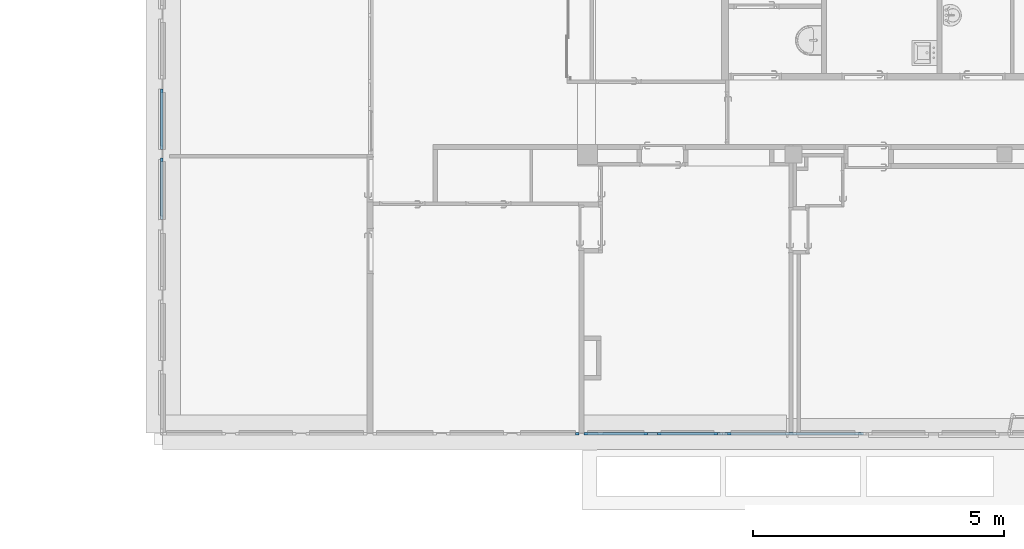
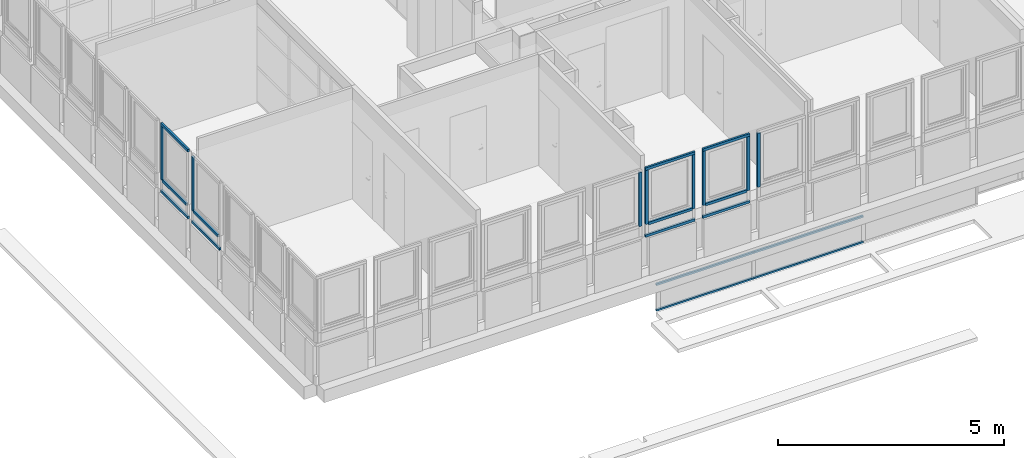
# One storey, part 3 of 97: 23 members, 7 elements without a shape of their own.
"""IFC4 building model written with IfcOpenShell, lengths in metres."""

from ifc_helpers import new_model, entity, si_unit, converted_unit, derived_unit, direction, frame, origin, place, context, subcontext, project, spatial, indexed_curve, outline, extrude, source, transform, mapped, material, type_object, type_shapes, element, aggregate, save


model = new_model("IFC4")

# Units and contexts
model_context = context("Model", 3, precision=1e-05, world=origin(), true_north=direction((6.12303176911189e-17, 1.0)))
body_context = subcontext(model_context, "Body", "Model", "MODEL_VIEW")
ifc_project = project(units=[si_unit("LENGTHUNIT", "METRE"), si_unit("AREAUNIT", "SQUARE_METRE"), si_unit("VOLUMEUNIT", "CUBIC_METRE"), converted_unit("PLANEANGLEUNIT", "DEGREE", entity("IfcRatioMeasure", 0.0174532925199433), si_unit("PLANEANGLEUNIT", "RADIAN"), dimensions=[0, 0, 0, 0, 0, 0, 0]), si_unit("MASSUNIT", "GRAM", prefix="KILO"), derived_unit("MASSDENSITYUNIT", [(si_unit("MASSUNIT", "GRAM", prefix="KILO"), 1), (si_unit("LENGTHUNIT", "METRE"), -3)]), derived_unit("MOMENTOFINERTIAUNIT", [(si_unit("LENGTHUNIT", "METRE"), 4)]), si_unit("TIMEUNIT", "SECOND"), si_unit("FREQUENCYUNIT", "HERTZ"), si_unit("THERMODYNAMICTEMPERATUREUNIT", "DEGREE_CELSIUS"), derived_unit("THERMALTRANSMITTANCEUNIT", [(si_unit("MASSUNIT", "GRAM", prefix="KILO"), 1), (si_unit("THERMODYNAMICTEMPERATUREUNIT", "KELVIN"), -1), (si_unit("TIMEUNIT", "SECOND"), -3)]), derived_unit("VOLUMETRICFLOWRATEUNIT", [(si_unit("LENGTHUNIT", "METRE"), 3), (si_unit("TIMEUNIT", "SECOND"), -1)]), si_unit("ELECTRICCURRENTUNIT", "AMPERE"), si_unit("ELECTRICVOLTAGEUNIT", "VOLT"), si_unit("POWERUNIT", "WATT"), si_unit("FORCEUNIT", "NEWTON", prefix="KILO"), si_unit("ILLUMINANCEUNIT", "LUX"), si_unit("LUMINOUSFLUXUNIT", "LUMEN"), si_unit("LUMINOUSINTENSITYUNIT", "CANDELA"), derived_unit("USERDEFINED", [(si_unit("MASSUNIT", "GRAM", prefix="KILO"), -1), (si_unit("LENGTHUNIT", "METRE"), -2), (si_unit("TIMEUNIT", "SECOND"), 3), (si_unit("LUMINOUSFLUXUNIT", "LUMEN"), 1)]), derived_unit("LINEARVELOCITYUNIT", [(si_unit("LENGTHUNIT", "METRE"), 1), (si_unit("TIMEUNIT", "SECOND"), -1)]), si_unit("PRESSUREUNIT", "PASCAL"), derived_unit("USERDEFINED", [(si_unit("LENGTHUNIT", "METRE"), -2), (si_unit("MASSUNIT", "GRAM", prefix="KILO"), 1), (si_unit("TIMEUNIT", "SECOND"), -2)]), derived_unit("LINEARFORCEUNIT", [(si_unit("MASSUNIT", "GRAM", prefix="KILO"), 1), (si_unit("LENGTHUNIT", "METRE"), 1), (si_unit("TIMEUNIT", "SECOND"), -2), (si_unit("LENGTHUNIT", "METRE"), -1)]), derived_unit("PLANARFORCEUNIT", [(si_unit("MASSUNIT", "GRAM", prefix="KILO"), 1), (si_unit("LENGTHUNIT", "METRE"), 1), (si_unit("TIMEUNIT", "SECOND"), -2), (si_unit("LENGTHUNIT", "METRE"), -2)])], contexts=[model_context])

# Site, building, storey
site_placement = place(None, origin())
site = spatial("IfcSite", under=ifc_project, at=site_placement, Name="Default", CompositionType="ELEMENT")
building_placement = place(site_placement, origin())
building = spatial("IfcBuilding", under=site, at=building_placement, Name="HOTEL CONSULAIRE BOULOGNE SUR MER", CompositionType="ELEMENT")
storey_placement = place(building_placement, frame((0.0, 0.0, 3.62152697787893)))
storey = spatial("IfcBuildingStorey", under=building, at=storey_placement, Name="Niveau 1", CompositionType="ELEMENT", Elevation=3.62152697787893)

# Curtain wall, members
curtain_wall_type = type_object("IfcCurtainWallType", Name="Mur-rideau:Simple panneau", PredefinedType="NOTDEFINED")
curtain_wall_1_placement = place(storey_placement, frame((0.0, 0.0, -3.62152697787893)))
curtain_wall_1 = element("IfcCurtainWall", 1, at=curtain_wall_1_placement, inside=storey, type_object=curtain_wall_type, Name="Mur-rideau:Simple panneau", ObjectType="Mur-rideau:Simple panneau", PredefinedType="NOTDEFINED")
ifc_material = material(Name="PVC - Blanc", Category="Plastique")
member_type_1 = type_object("IfcMemberType", Name="Meneau rectangulaire:50 x 25mm", PredefinedType="MULLION", material=ifc_material)
shared_shape_1 = source(origin(), body_context, "Body", "SweptSolid", [
    extrude(outline(indexed_curve([(-0.025, -0.025), (0.025, -0.025), (0.025, 0.025), (-0.025, 0.025), (-0.025, -0.025)], self_intersect=False)), frame((-0.025, -0.025, -2.486), z_axis=(0.0, 0.0, 1.0), x_axis=(0.0, -1.0, 0.0)), (0.0, 0.0, 1.0), 2.486),
])
type_shapes(member_type_1, [shared_shape_1])
member_1_placement = place(storey_placement, frame((-5.12977317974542, -29.5510671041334, -0.56300000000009), z_axis=(-1.0, 0.0, 0.0), x_axis=(0.0, 0.0, 1.0)))
member_1 = element("IfcMember", 2, at=member_1_placement, type_object=member_type_1, material=ifc_material, Name="Meneau rectangulaire:50 x 25mm", ObjectType="Meneau rectangulaire:50 x 25mm", PredefinedType="MULLION", context=body_context, shape_type="MappedRepresentation", body=[
    mapped(shared_shape_1, transform((0.0, 0.0, 0.0), scale=1.0)),
])
member_type_2 = type_object("IfcMemberType", Name="Meneau rectangulaire:50 x 25mm", PredefinedType="MULLION", material=ifc_material)
shared_shape_2 = source(origin(), body_context, "Body", "SweptSolid", [
    extrude(outline(indexed_curve([(-0.025, -0.025), (0.025, -0.025), (0.025, 0.025), (-0.025, 0.025), (-0.025, -0.025)], self_intersect=False)), frame((-0.025, -0.025, -2.805), z_axis=(0.0, 0.0, 1.0), x_axis=(0.0, -1.0, 0.0)), (0.0, 0.0, 1.0), 2.805),
])
type_shapes(member_type_2, [shared_shape_2])
member_2_placement = place(storey_placement, frame((0.16122682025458, -29.5510671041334, -1.3055269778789), z_axis=(1.0, 0.0, 0.0), x_axis=(0.0, 0.0, -1.0)))
member_2 = element("IfcMember", 3, at=member_2_placement, type_object=member_type_2, material=ifc_material, Name="Meneau rectangulaire:50 x 25mm", ObjectType="Meneau rectangulaire:50 x 25mm", PredefinedType="MULLION", context=body_context, shape_type="MappedRepresentation", body=[
    mapped(shared_shape_2, transform((0.0, 0.0, 0.0), scale=1.0)),
])
member_type_3 = type_object("IfcMemberType", Name="Meneau rectangulaire:50 x 25mm", PredefinedType="MULLION", material=ifc_material)
shared_shape_3 = source(origin(), body_context, "Body", "SweptSolid", [
    extrude(outline(indexed_curve([(-0.025, -0.025), (0.025, -0.025), (0.025, 0.025), (-0.025, 0.025), (-0.025, -0.025)], self_intersect=False)), frame((-0.025, -0.025, -2.805), z_axis=(0.0, 0.0, 1.0), x_axis=(0.0, -1.0, 0.0)), (0.0, 0.0, 1.0), 2.805),
])
type_shapes(member_type_3, [shared_shape_3])
member_3_placement = place(storey_placement, frame((-2.64377317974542, -29.5510671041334, -0.56300000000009), z_axis=(-1.0, 0.0, 0.0), x_axis=(0.0, 0.0, 1.0)))
member_3 = element("IfcMember", 4, at=member_3_placement, type_object=member_type_3, material=ifc_material, Name="Meneau rectangulaire:50 x 25mm", ObjectType="Meneau rectangulaire:50 x 25mm", PredefinedType="MULLION", context=body_context, shape_type="MappedRepresentation", body=[
    mapped(shared_shape_3, transform((0.0, 0.0, 0.0), scale=1.0)),
])
member_type_4 = type_object("IfcMemberType", Name="Meneau rectangulaire:50 x 25mm", PredefinedType="MULLION", material=ifc_material)
shared_shape_4 = source(origin(), body_context, "Body", "SweptSolid", [
    extrude(outline(indexed_curve([(-0.025, -0.025), (0.025, -0.025), (0.025, 0.025), (-0.025, 0.025), (-0.025, -0.025)], self_intersect=False)), frame((-0.025, -0.025, -2.486), z_axis=(0.0, 0.0, 1.0), x_axis=(0.0, -1.0, 0.0)), (0.0, 0.0, 1.0), 2.486),
])
type_shapes(member_type_4, [shared_shape_4])
member_4_placement = place(storey_placement, frame((-2.64377317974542, -29.5510671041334, -1.3055269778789), z_axis=(1.0, 0.0, 0.0), x_axis=(0.0, 0.0, -1.0)))
member_4 = element("IfcMember", 5, at=member_4_placement, type_object=member_type_4, material=ifc_material, Name="Meneau rectangulaire:50 x 25mm", ObjectType="Meneau rectangulaire:50 x 25mm", PredefinedType="MULLION", context=body_context, shape_type="MappedRepresentation", body=[
    mapped(shared_shape_4, transform((0.0, 0.0, 0.0), scale=1.0)),
])
aggregate(curtain_wall_1, [member_1, member_2, member_3, member_4])

# Curtain wall, member
curtain_wall_2_placement = place(storey_placement, frame((0.0, 0.0, -3.62152697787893)))
curtain_wall_2 = element("IfcCurtainWall", 6, at=curtain_wall_2_placement, inside=storey, type_object=curtain_wall_type, Name="Mur-rideau:Simple panneau", ObjectType="Mur-rideau:Simple panneau", PredefinedType="NOTDEFINED")
member_type_5 = type_object("IfcMemberType", Name="Meneau rectangulaire:50 x 35", PredefinedType="MULLION", material=ifc_material)
shared_shape_5 = source(origin(), body_context, "Body", "SweptSolid", [
    extrude(outline(indexed_curve([(-0.025, -0.035), (0.025, -0.035), (0.025, 0.035), (-0.025, 0.035), (-0.025, -0.035)], self_intersect=False)), frame((-0.035, -0.025, -1.20000000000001), z_axis=(0.0, 0.0, 1.0), x_axis=(0.0, -1.0, 0.0)), (0.0, 0.0, 1.0), 1.20000000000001),
])
type_shapes(member_type_5, [shared_shape_5])
member_5_placement = place(storey_placement, frame((-3.94141997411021, -29.5501047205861, 2.67047302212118), z_axis=(-1.0, 0.0, 0.0), x_axis=(0.0, 0.0, 1.0)))
member_5 = element("IfcMember", 7, at=member_5_placement, type_object=member_type_5, material=ifc_material, Name="Meneau rectangulaire:50 x 35", ObjectType="Meneau rectangulaire:50 x 35", PredefinedType="MULLION", context=body_context, shape_type="MappedRepresentation", body=[
    mapped(shared_shape_5, transform((0.0, 0.0, 0.0), scale=1.0)),
])

curtain_wall_3_placement = place(storey_placement, frame((0.0, 0.0, -3.62152697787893)))
curtain_wall_3 = element("IfcCurtainWall", 8, at=curtain_wall_3_placement, inside=storey, type_object=curtain_wall_type, Name="Mur-rideau:Simple panneau", ObjectType="Mur-rideau:Simple panneau", PredefinedType="NOTDEFINED")
member_type_6 = type_object("IfcMemberType", Name="Meneau rectangulaire:50 x 35", PredefinedType="MULLION", material=ifc_material)
shared_shape_6 = source(origin(), body_context, "Body", "SweptSolid", [
    extrude(outline(indexed_curve([(-0.025, -0.035), (0.025, -0.035), (0.025, 0.035), (-0.025, 0.035), (-0.025, -0.035)], self_intersect=False)), frame((-0.035, -0.025, -1.20000000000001), z_axis=(0.0, 0.0, 1.0), x_axis=(0.0, -1.0, 0.0)), (0.0, 0.0, 1.0), 1.20000000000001),
])
type_shapes(member_type_6, [shared_shape_6])
member_6_placement = place(storey_placement, frame((-13.7870998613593, -23.9114499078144, 0.791612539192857), z_axis=(0.0, -1.0, 0.0), x_axis=(0.0, 0.0, -1.0)))
member_6 = element("IfcMember", 9, at=member_6_placement, type_object=member_type_6, material=ifc_material, Name="Meneau rectangulaire:50 x 35", ObjectType="Meneau rectangulaire:50 x 35", PredefinedType="MULLION", context=body_context, shape_type="MappedRepresentation", body=[
    mapped(shared_shape_6, transform((0.0, 0.0, 0.0), scale=1.0)),
])

# Member
member_7_placement = place(storey_placement, frame((-2.74141997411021, -29.5501047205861, 0.791612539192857), z_axis=(1.0, 0.0, 0.0), x_axis=(0.0, 0.0, -1.0)))
member_7 = element("IfcMember", 10, at=member_7_placement, type_object=member_type_6, material=ifc_material, Name="Meneau rectangulaire:50 x 35", ObjectType="Meneau rectangulaire:50 x 35", PredefinedType="MULLION", context=body_context, shape_type="MappedRepresentation", body=[
    mapped(shared_shape_6, transform((0.0, 0.0, 0.0), scale=1.0)),
])

member_type_7 = type_object("IfcMemberType", Name="Meneau rectangulaire:50 x 35", PredefinedType="MULLION", material=ifc_material)
shared_shape_7 = source(origin(), body_context, "Body", "SweptSolid", [
    extrude(outline(indexed_curve([(-0.025, -0.035), (0.025, -0.035), (0.025, 0.035), (-0.025, 0.035), (-0.025, -0.035)], self_intersect=False)), frame((0.0, -0.025, -1.06000000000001), z_axis=(0.0, 0.0, 1.0), x_axis=(0.0, -1.0, 0.0)), (0.0, 0.0, 1.0), 1.06000000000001),
])
type_shapes(member_type_7, [shared_shape_7])
member_8_placement = place(storey_placement, frame((-13.7870998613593, -22.7814499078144, 1.13961253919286), z_axis=(0.0, 1.0, 0.0), x_axis=(0.0, 0.0, 1.0)))
member_8 = element("IfcMember", 11, at=member_8_placement, type_object=member_type_7, material=ifc_material, Name="Meneau rectangulaire:50 x 35", ObjectType="Meneau rectangulaire:50 x 35", PredefinedType="MULLION", context=body_context, shape_type="MappedRepresentation", body=[
    mapped(shared_shape_7, transform((0.0, 0.0, 0.0), scale=1.0)),
])

member_9_placement = place(storey_placement, frame((-3.87141997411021, -29.5501047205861, 1.13961253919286), z_axis=(-1.0, 0.0, 0.0), x_axis=(0.0, 0.0, 1.0)))
member_9 = element("IfcMember", 12, at=member_9_placement, type_object=member_type_7, material=ifc_material, Name="Meneau rectangulaire:50 x 35", ObjectType="Meneau rectangulaire:50 x 35", PredefinedType="MULLION", context=body_context, shape_type="MappedRepresentation", body=[
    mapped(shared_shape_7, transform((0.0, 0.0, 0.0), scale=1.0)),
])

member_type_8 = type_object("IfcMemberType", Name="Meneau rectangulaire:50 x 35", PredefinedType="MULLION", material=ifc_material)
shared_shape_8 = source(origin(), body_context, "Body", "SweptSolid", [
    extrude(outline(indexed_curve([(-0.025, -0.035), (0.025, -0.035), (0.025, 0.035), (-0.025, 0.035), (-0.025, -0.035)], self_intersect=False)), frame((-0.035, -0.025, -1.46086048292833), z_axis=(0.0, 0.0, 1.0), x_axis=(0.0, -1.0, 0.0)), (0.0, 0.0, 1.0), 1.46086048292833),
])
type_shapes(member_type_8, [shared_shape_8])
member_10_placement = place(storey_placement, frame((-13.7870998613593, -22.7114499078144, 1.13961253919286), z_axis=(0.0, 0.0, -1.0), x_axis=(0.0, 1.0, 0.0)))
member_10 = element("IfcMember", 13, at=member_10_placement, type_object=member_type_8, material=ifc_material, Name="Meneau rectangulaire:50 x 35", ObjectType="Meneau rectangulaire:50 x 35", PredefinedType="MULLION", context=body_context, shape_type="MappedRepresentation", body=[
    mapped(shared_shape_8, transform((0.0, 0.0, 0.0), scale=1.0)),
])

# Curtain wall, member
curtain_wall_4_placement = place(storey_placement, frame((0.0, 0.0, -3.62152697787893)))
curtain_wall_4 = element("IfcCurtainWall", 14, at=curtain_wall_4_placement, inside=storey, type_object=curtain_wall_type, Name="Mur-rideau:Simple panneau", ObjectType="Mur-rideau:Simple panneau", PredefinedType="NOTDEFINED")
member_11_placement = place(storey_placement, frame((-13.7870998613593, -24.0792596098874, 1.13961253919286), z_axis=(0.0, 0.0, -1.0), x_axis=(0.0, 1.0, 0.0)))
member_11 = element("IfcMember", 15, at=member_11_placement, type_object=member_type_8, material=ifc_material, Name="Meneau rectangulaire:50 x 35", ObjectType="Meneau rectangulaire:50 x 35", PredefinedType="MULLION", context=body_context, shape_type="MappedRepresentation", body=[
    mapped(shared_shape_8, transform((0.0, 0.0, 0.0), scale=1.0)),
])

curtain_wall_5_placement = place(storey_placement, frame((0.0, 0.0, -3.62152697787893)))
curtain_wall_5 = element("IfcCurtainWall", 16, at=curtain_wall_5_placement, inside=storey, type_object=curtain_wall_type, Name="Mur-rideau:Simple panneau", ObjectType="Mur-rideau:Simple panneau", PredefinedType="NOTDEFINED")
member_12_placement = place(storey_placement, frame((-5.40714306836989, -29.5501047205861, 1.13961253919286), z_axis=(0.0, 0.0, -1.0), x_axis=(-1.0, 0.0, 0.0)))
member_12 = element("IfcMember", 17, at=member_12_placement, type_object=member_type_8, material=ifc_material, Name="Meneau rectangulaire:50 x 35", ObjectType="Meneau rectangulaire:50 x 35", PredefinedType="MULLION", context=body_context, shape_type="MappedRepresentation", body=[
    mapped(shared_shape_8, transform((0.0, 0.0, 0.0), scale=1.0)),
])

# Member
member_13_placement = place(storey_placement, frame((-3.94141997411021, -29.5501047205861, 1.13961253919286), z_axis=(0.0, 0.0, -1.0), x_axis=(-1.0, 0.0, 0.0)))
member_13 = element("IfcMember", 18, at=member_13_placement, type_object=member_type_8, material=ifc_material, Name="Meneau rectangulaire:50 x 35", ObjectType="Meneau rectangulaire:50 x 35", PredefinedType="MULLION", context=body_context, shape_type="MappedRepresentation", body=[
    mapped(shared_shape_8, transform((0.0, 0.0, 0.0), scale=1.0)),
])

# Curtain wall, member
curtain_wall_6_placement = place(storey_placement, frame((0.0, 0.0, -3.62152697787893)))
curtain_wall_6 = element("IfcCurtainWall", 19, at=curtain_wall_6_placement, inside=storey, type_object=curtain_wall_type, Name="Mur-rideau:Simple panneau", ObjectType="Mur-rideau:Simple panneau", PredefinedType="NOTDEFINED")
member_14_placement = place(storey_placement, frame((-2.54141997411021, -29.5501047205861, 1.13961253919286), z_axis=(0.0, 0.0, -1.0), x_axis=(-1.0, 0.0, 0.0)))
member_14 = element("IfcMember", 20, at=member_14_placement, type_object=member_type_8, material=ifc_material, Name="Meneau rectangulaire:50 x 35", ObjectType="Meneau rectangulaire:50 x 35", PredefinedType="MULLION", context=body_context, shape_type="MappedRepresentation", body=[
    mapped(shared_shape_8, transform((0.0, 0.0, 0.0), scale=1.0)),
])
aggregate(curtain_wall_6, [member_14])

# Member
member_type_9 = type_object("IfcMemberType", Name="Meneau rectangulaire:50 x 35", PredefinedType="MULLION", material=ifc_material)
shared_shape_9 = source(origin(), body_context, "Body", "SweptSolid", [
    extrude(outline(indexed_curve([(-0.025, -0.035), (0.025, -0.035), (0.025, 0.035), (-0.025, 0.035), (-0.025, -0.035)], self_intersect=False)), frame((-0.035, -0.025, -1.20000000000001), z_axis=(0.0, 0.0, 1.0), x_axis=(0.0, -1.0, 0.0)), (0.0, 0.0, 1.0), 1.20000000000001),
])
type_shapes(member_type_9, [shared_shape_9])
member_15_placement = place(storey_placement, frame((-13.7870998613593, -22.7114499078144, 2.67047302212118), z_axis=(0.0, 1.0, 0.0), x_axis=(0.0, 0.0, 1.0)))
member_15 = element("IfcMember", 21, at=member_15_placement, type_object=member_type_9, material=ifc_material, Name="Meneau rectangulaire:50 x 35", ObjectType="Meneau rectangulaire:50 x 35", PredefinedType="MULLION", context=body_context, shape_type="MappedRepresentation", body=[
    mapped(shared_shape_9, transform((0.0, 0.0, 0.0), scale=1.0)),
])

aggregate(curtain_wall_3, [member_15, member_6, member_8, member_10])

member_type_10 = type_object("IfcMemberType", Name="Meneau rectangulaire:50 x 35", PredefinedType="MULLION", material=ifc_material)
shared_shape_10 = source(origin(), body_context, "Body", "SweptSolid", [
    extrude(outline(indexed_curve([(-0.025, -0.035), (0.025, -0.035), (0.025, 0.035), (-0.025, 0.035), (-0.025, -0.035)], self_intersect=False)), frame((-0.035, -0.025, -1.23219029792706), z_axis=(0.0, 0.0, 1.0), x_axis=(0.0, -1.0, 0.0)), (0.0, 0.0, 1.0), 1.23219029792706),
])
type_shapes(member_type_10, [shared_shape_10])
member_16_placement = place(storey_placement, frame((-13.7870998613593, -25.3114499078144, 0.791612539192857), z_axis=(0.0, -1.0, 0.0), x_axis=(0.0, 0.0, -1.0)))
member_16 = element("IfcMember", 22, at=member_16_placement, type_object=member_type_10, material=ifc_material, Name="Meneau rectangulaire:50 x 35", ObjectType="Meneau rectangulaire:50 x 35", PredefinedType="MULLION", context=body_context, shape_type="MappedRepresentation", body=[
    mapped(shared_shape_10, transform((0.0, 0.0, 0.0), scale=1.0)),
])

member_type_11 = type_object("IfcMemberType", Name="Meneau rectangulaire:50 x 35", PredefinedType="MULLION", material=ifc_material)
shared_shape_11 = source(origin(), body_context, "Body", "SweptSolid", [
    extrude(outline(indexed_curve([(-0.025, -0.035), (0.025, -0.035), (0.025, 0.035), (-0.025, 0.035), (-0.025, -0.035)], self_intersect=False)), frame((0.0, -0.025, -1.09219029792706), z_axis=(0.0, 0.0, 1.0), x_axis=(0.0, -1.0, 0.0)), (0.0, 0.0, 1.0), 1.09219029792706),
])
type_shapes(member_type_11, [shared_shape_11])
member_17_placement = place(storey_placement, frame((-13.7870998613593, -24.1492596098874, 1.13961253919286), z_axis=(0.0, 1.0, 0.0), x_axis=(0.0, 0.0, 1.0)))
member_17 = element("IfcMember", 23, at=member_17_placement, type_object=member_type_11, material=ifc_material, Name="Meneau rectangulaire:50 x 35", ObjectType="Meneau rectangulaire:50 x 35", PredefinedType="MULLION", context=body_context, shape_type="MappedRepresentation", body=[
    mapped(shared_shape_11, transform((0.0, 0.0, 0.0), scale=1.0)),
])

aggregate(curtain_wall_4, [member_16, member_17, member_11])

# Curtain wall, member
curtain_wall_7_placement = place(storey_placement, frame((0.0, 0.0, -3.62152697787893)))
curtain_wall_7 = element("IfcCurtainWall", 24, at=curtain_wall_7_placement, inside=storey, type_object=curtain_wall_type, Name="Mur-rideau:Simple panneau", ObjectType="Mur-rideau:Simple panneau", PredefinedType="NOTDEFINED")
member_type_12 = type_object("IfcMemberType", Name="Meneau rectangulaire:50 x 35", PredefinedType="MULLION", material=ifc_material)
shared_shape_12 = source(origin(), body_context, "Body", "SweptSolid", [
    extrude(outline(indexed_curve([(-0.025, -0.035), (0.025, -0.035), (0.025, 0.035), (-0.025, 0.035), (-0.025, -0.035)], self_intersect=False)), frame((-0.035, -0.025, -1.46086048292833), z_axis=(0.0, 0.0, 1.0), x_axis=(0.0, -1.0, 0.0)), (0.0, 0.0, 1.0), 1.46086048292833),
])
type_shapes(member_type_12, [shared_shape_12])
member_18_placement = place(storey_placement, frame((-5.50714306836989, -29.5501047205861, 2.60047302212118)))
member_18 = element("IfcMember", 25, at=member_18_placement, type_object=member_type_12, material=ifc_material, Name="Meneau rectangulaire:50 x 35", ObjectType="Meneau rectangulaire:50 x 35", PredefinedType="MULLION", context=body_context, shape_type="MappedRepresentation", body=[
    mapped(shared_shape_12, transform((0.0, 0.0, 0.0), scale=1.0)),
])
aggregate(curtain_wall_7, [member_18])

# Member
member_19_placement = place(storey_placement, frame((-4.14141997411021, -29.5501047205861, 2.60047302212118)))
member_19 = element("IfcMember", 26, at=member_19_placement, type_object=member_type_12, material=ifc_material, Name="Meneau rectangulaire:50 x 35", ObjectType="Meneau rectangulaire:50 x 35", PredefinedType="MULLION", context=body_context, shape_type="MappedRepresentation", body=[
    mapped(shared_shape_12, transform((0.0, 0.0, 0.0), scale=1.0)),
])

member_20_placement = place(storey_placement, frame((-2.74141997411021, -29.5501047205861, 2.60047302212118)))
member_20 = element("IfcMember", 27, at=member_20_placement, type_object=member_type_12, material=ifc_material, Name="Meneau rectangulaire:50 x 35", ObjectType="Meneau rectangulaire:50 x 35", PredefinedType="MULLION", context=body_context, shape_type="MappedRepresentation", body=[
    mapped(shared_shape_12, transform((0.0, 0.0, 0.0), scale=1.0)),
])

aggregate(curtain_wall_2, [member_20, member_5, member_7, member_9, member_13])

member_type_13 = type_object("IfcMemberType", Name="Meneau rectangulaire:50 x 35", PredefinedType="MULLION", material=ifc_material)
shared_shape_13 = source(origin(), body_context, "Body", "SweptSolid", [
    extrude(outline(indexed_curve([(-0.025, -0.035), (0.025, -0.035), (0.025, 0.035), (-0.025, 0.035), (-0.025, -0.035)], self_intersect=False)), frame((-0.035, -0.025, -1.26572309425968), z_axis=(0.0, 0.0, 1.0), x_axis=(0.0, -1.0, 0.0)), (0.0, 0.0, 1.0), 1.26572309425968),
])
type_shapes(member_type_13, [shared_shape_13])
member_21_placement = place(storey_placement, frame((-5.40714306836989, -29.5501047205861, 2.67047302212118), z_axis=(-1.0, 0.0, 0.0), x_axis=(0.0, 0.0, 1.0)))
member_21 = element("IfcMember", 28, at=member_21_placement, type_object=member_type_13, material=ifc_material, Name="Meneau rectangulaire:50 x 35", ObjectType="Meneau rectangulaire:50 x 35", PredefinedType="MULLION", context=body_context, shape_type="MappedRepresentation", body=[
    mapped(shared_shape_13, transform((0.0, 0.0, 0.0), scale=1.0)),
])

member_type_14 = type_object("IfcMemberType", Name="Meneau rectangulaire:50 x 35", PredefinedType="MULLION", material=ifc_material)
shared_shape_14 = source(origin(), body_context, "Body", "SweptSolid", [
    extrude(outline(indexed_curve([(-0.025, -0.035), (0.025, -0.035), (0.025, 0.035), (-0.025, 0.035), (-0.025, -0.035)], self_intersect=False)), frame((-0.035, -0.025, -1.26572309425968), z_axis=(0.0, 0.0, 1.0), x_axis=(0.0, -1.0, 0.0)), (0.0, 0.0, 1.0), 1.26572309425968),
])
type_shapes(member_type_14, [shared_shape_14])
member_22_placement = place(storey_placement, frame((-4.14141997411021, -29.5501047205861, 0.791612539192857), z_axis=(1.0, 0.0, 0.0), x_axis=(0.0, 0.0, -1.0)))
member_22 = element("IfcMember", 29, at=member_22_placement, type_object=member_type_14, material=ifc_material, Name="Meneau rectangulaire:50 x 35", ObjectType="Meneau rectangulaire:50 x 35", PredefinedType="MULLION", context=body_context, shape_type="MappedRepresentation", body=[
    mapped(shared_shape_14, transform((0.0, 0.0, 0.0), scale=1.0)),
])

member_type_15 = type_object("IfcMemberType", Name="Meneau rectangulaire:50 x 35", PredefinedType="MULLION", material=ifc_material)
shared_shape_15 = source(origin(), body_context, "Body", "SweptSolid", [
    extrude(outline(indexed_curve([(-0.025, -0.035), (0.025, -0.035), (0.025, 0.035), (-0.025, 0.035), (-0.025, -0.035)], self_intersect=False)), frame((0.0, -0.025, -1.12572309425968), z_axis=(0.0, 0.0, 1.0), x_axis=(0.0, -1.0, 0.0)), (0.0, 0.0, 1.0), 1.12572309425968),
])
type_shapes(member_type_15, [shared_shape_15])
member_23_placement = place(storey_placement, frame((-5.33714306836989, -29.5501047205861, 1.13961253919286), z_axis=(-1.0, 0.0, 0.0), x_axis=(0.0, 0.0, 1.0)))
member_23 = element("IfcMember", 30, at=member_23_placement, type_object=member_type_15, material=ifc_material, Name="Meneau rectangulaire:50 x 35", ObjectType="Meneau rectangulaire:50 x 35", PredefinedType="MULLION", context=body_context, shape_type="MappedRepresentation", body=[
    mapped(shared_shape_15, transform((0.0, 0.0, 0.0), scale=1.0)),
])

aggregate(curtain_wall_5, [member_19, member_21, member_22, member_23, member_12])

save(model, "model.ifc")
